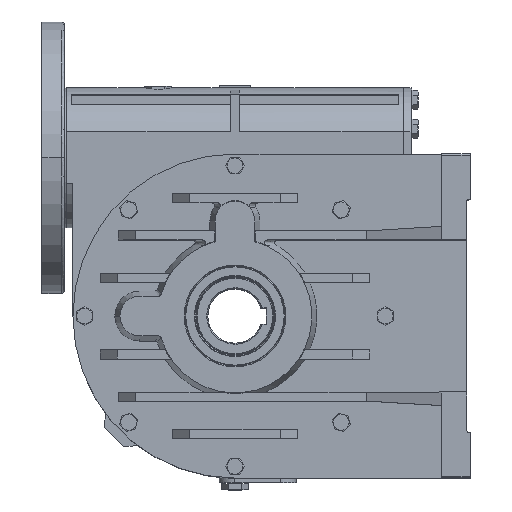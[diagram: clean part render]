
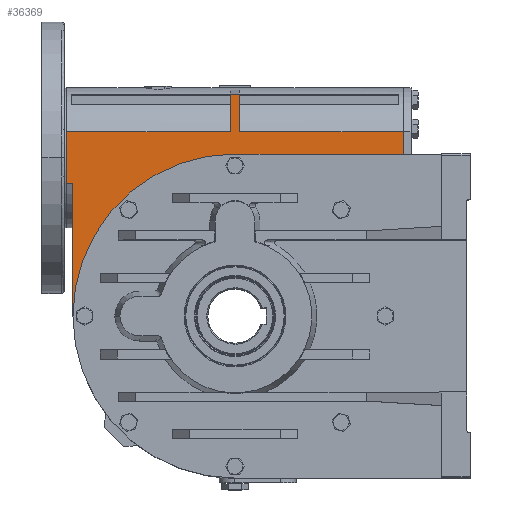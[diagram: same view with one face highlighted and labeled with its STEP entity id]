
A CAD part, top view. The second image highlights one B-rep face of the part: STEP entity #36369.
In plain terms, the highlighted planar face has unit normal (0, 0, 1).
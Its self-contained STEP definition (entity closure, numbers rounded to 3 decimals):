
#4734 = CARTESIAN_POINT ( 'NONE',  ( -5., 28.675, 72. ) ) ;
#4851 = CARTESIAN_POINT ( 'NONE',  ( -186., 28.675, 72. ) ) ;
#4853 = DIRECTION ( 'NONE',  ( -1., 0., 0. ) ) ;
#4855 = VECTOR ( 'NONE', #4853, 1000. ) ;
#4857 = CARTESIAN_POINT ( 'NONE',  ( -179., 28.675, 72. ) ) ;
#4858 = LINE ( 'NONE', #4857, #4855 ) ;
#5043 = DIRECTION ( 'NONE',  ( 0., -1., 0. ) ) ;
#5045 = VECTOR ( 'NONE', #5043, 1000. ) ;
#5047 = CARTESIAN_POINT ( 'NONE',  ( -186., -175., 72. ) ) ;
#5050 = LINE ( 'NONE', #5047, #5045 ) ;
#5067 = DIRECTION ( 'NONE',  ( -1., 0., 0. ) ) ;
#5068 = VECTOR ( 'NONE', #5067, 1000. ) ;
#5070 = CARTESIAN_POINT ( 'NONE',  ( -179., 28.675, 72. ) ) ;
#5072 = LINE ( 'NONE', #5070, #5068 ) ;
#5144 = DIRECTION ( 'NONE',  ( 0., -1., 0. ) ) ;
#5145 = VECTOR ( 'NONE', #5144, 1000. ) ;
#5146 = CARTESIAN_POINT ( 'NONE',  ( -5., -175., 72. ) ) ;
#5148 = LINE ( 'NONE', #5146, #5145 ) ;
#5161 = CARTESIAN_POINT ( 'NONE',  ( -5., 70., 72. ) ) ;
#5162 = DIRECTION ( 'NONE',  ( -1., 0., 0. ) ) ;
#5163 = VECTOR ( 'NONE', #5162, 1000. ) ;
#5164 = CARTESIAN_POINT ( 'NONE',  ( -179., 70., 72. ) ) ;
#5166 = LINE ( 'NONE', #5164, #5163 ) ;
#5173 = CARTESIAN_POINT ( 'NONE',  ( 5., 70., 72. ) ) ;
#5185 = DIRECTION ( 'NONE',  ( 0., 1., 0. ) ) ;
#5186 = VECTOR ( 'NONE', #5185, 1000. ) ;
#5187 = CARTESIAN_POINT ( 'NONE',  ( 5., -175., 72. ) ) ;
#5189 = LINE ( 'NONE', #5187, #5186 ) ;
#5194 = CARTESIAN_POINT ( 'NONE',  ( 5., 28.675, 72. ) ) ;
#5430 = CARTESIAN_POINT ( 'NONE',  ( -186., -28.675, 72. ) ) ;
#5431 = DIRECTION ( 'NONE',  ( 1., 0., 0. ) ) ;
#5432 = VECTOR ( 'NONE', #5431, 1000. ) ;
#5433 = CARTESIAN_POINT ( 'NONE',  ( -179., -28.675, 72. ) ) ;
#5435 = LINE ( 'NONE', #5433, #5432 ) ;
#5463 = CARTESIAN_POINT ( 'NONE',  ( 186., 28.675, 72. ) ) ;
#5471 = DIRECTION ( 'NONE',  ( 0., 1., 0. ) ) ;
#5473 = VECTOR ( 'NONE', #5471, 1000. ) ;
#5475 = CARTESIAN_POINT ( 'NONE',  ( 186., -175., 72. ) ) ;
#5476 = LINE ( 'NONE', #5475, #5473 ) ;
#5492 = CARTESIAN_POINT ( 'NONE',  ( 186., -28.675, 72. ) ) ;
#5501 = DIRECTION ( 'NONE',  ( 1., 0., 0. ) ) ;
#5502 = VECTOR ( 'NONE', #5501, 1000. ) ;
#5503 = CARTESIAN_POINT ( 'NONE',  ( -179., -28.675, 72. ) ) ;
#5504 = LINE ( 'NONE', #5503, #5502 ) ;
#5836 = DIRECTION ( 'NONE',  ( 1., 0., 0. ) ) ;
#5837 = DIRECTION ( 'NONE',  ( 0., 0., 1. ) ) ;
#5839 = CARTESIAN_POINT ( 'NONE',  ( -179., -175., 72. ) ) ;
#5842 = AXIS2_PLACEMENT_3D ( 'NONE', #5839, #5837, #5836 ) ;
#5844 = PLANE ( 'NONE',  #5842 ) ;
#5845 = FACE_OUTER_BOUND ( 'NONE', #36370, .T. ) ;
#33167 = CIRCLE ( 'NONE', #33193, 179. ) ;
#33188 = CARTESIAN_POINT ( 'NONE',  ( -179., -175., 72. ) ) ;
#33189 = CARTESIAN_POINT ( 'NONE',  ( 179., -175., 72. ) ) ;
#33190 = DIRECTION ( 'NONE',  ( 1., 0., 0. ) ) ;
#33191 = DIRECTION ( 'NONE',  ( 0., 0., 1. ) ) ;
#33192 = CARTESIAN_POINT ( 'NONE',  ( 0., -175., 72. ) ) ;
#33193 = AXIS2_PLACEMENT_3D ( 'NONE', #33192, #33191, #33190 ) ;
#33441 = CARTESIAN_POINT ( 'NONE',  ( 179., -28.675, 72. ) ) ;
#33489 = DIRECTION ( 'NONE',  ( 0., 1., 0. ) ) ;
#33490 = VECTOR ( 'NONE', #33489, 1000. ) ;
#33491 = CARTESIAN_POINT ( 'NONE',  ( 179., -105.542, 72. ) ) ;
#33492 = LINE ( 'NONE', #33491, #33490 ) ;
#34136 = EDGE_CURVE ( 'NONE', #34138, #34140, #33167, .T. ) ;
#34138 = VERTEX_POINT ( 'NONE', #33189 ) ;
#34140 = VERTEX_POINT ( 'NONE', #33188 ) ;
#34448 = VERTEX_POINT ( 'NONE', #33441 ) ;
#34455 = EDGE_CURVE ( 'NONE', #34138, #34448, #33492, .T. ) ;
#34617 = DIRECTION ( 'NONE',  ( 0., -1., 0. ) ) ;
#34618 = VECTOR ( 'NONE', #34617, 1000. ) ;
#34620 = CARTESIAN_POINT ( 'NONE',  ( -179., -105.542, 72. ) ) ;
#34623 = LINE ( 'NONE', #34620, #34618 ) ;
#34685 = CARTESIAN_POINT ( 'NONE',  ( -179., -28.675, 72. ) ) ;
#35013 = EDGE_CURVE ( 'NONE', #35039, #34140, #34623, .T. ) ;
#35039 = VERTEX_POINT ( 'NONE', #34685 ) ;
#36214 = VERTEX_POINT ( 'NONE', #4734 ) ;
#36216 = ORIENTED_EDGE ( 'NONE', *, *, #36218, .T. ) ;
#36218 = EDGE_CURVE ( 'NONE', #36214, #36219, #4858, .T. ) ;
#36219 = VERTEX_POINT ( 'NONE', #4851 ) ;
#36257 = EDGE_CURVE ( 'NONE', #36219, #36317, #5050, .T. ) ;
#36284 = EDGE_CURVE ( 'NONE', #36337, #36285, #5072, .T. ) ;
#36285 = VERTEX_POINT ( 'NONE', #5194 ) ;
#36286 = ORIENTED_EDGE ( 'NONE', *, *, #36287, .T. ) ;
#36287 = EDGE_CURVE ( 'NONE', #36285, #36289, #5189, .T. ) ;
#36289 = VERTEX_POINT ( 'NONE', #5173 ) ;
#36291 = ORIENTED_EDGE ( 'NONE', *, *, #36294, .T. ) ;
#36294 = EDGE_CURVE ( 'NONE', #36289, #36295, #5166, .T. ) ;
#36295 = VERTEX_POINT ( 'NONE', #5161 ) ;
#36297 = ORIENTED_EDGE ( 'NONE', *, *, #36298, .T. ) ;
#36298 = EDGE_CURVE ( 'NONE', #36295, #36214, #5148, .T. ) ;
#36314 = ORIENTED_EDGE ( 'NONE', *, *, #36316, .T. ) ;
#36316 = EDGE_CURVE ( 'NONE', #36317, #35039, #5435, .T. ) ;
#36317 = VERTEX_POINT ( 'NONE', #5430 ) ;
#36320 = ORIENTED_EDGE ( 'NONE', *, *, #35013, .T. ) ;
#36322 = ORIENTED_EDGE ( 'NONE', *, *, #34136, .F. ) ;
#36324 = ORIENTED_EDGE ( 'NONE', *, *, #34455, .T. ) ;
#36326 = ORIENTED_EDGE ( 'NONE', *, *, #36328, .T. ) ;
#36328 = EDGE_CURVE ( 'NONE', #34448, #36330, #5504, .T. ) ;
#36330 = VERTEX_POINT ( 'NONE', #5492 ) ;
#36332 = ORIENTED_EDGE ( 'NONE', *, *, #36335, .T. ) ;
#36335 = EDGE_CURVE ( 'NONE', #36330, #36337, #5476, .T. ) ;
#36337 = VERTEX_POINT ( 'NONE', #5463 ) ;
#36340 = ORIENTED_EDGE ( 'NONE', *, *, #36284, .T. ) ;
#36342 = ORIENTED_EDGE ( 'NONE', *, *, #36257, .T. ) ;
#36369 = ADVANCED_FACE ( 'NONE', ( #5845 ), #5844, .T. ) ;
#36370 = EDGE_LOOP ( 'NONE', ( #36314, #36320, #36322, #36324, #36326, #36332, #36340, #36286, #36291, #36297, #36216, #36342 ) ) ;
